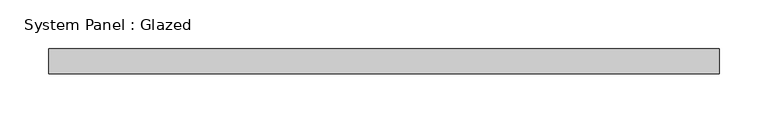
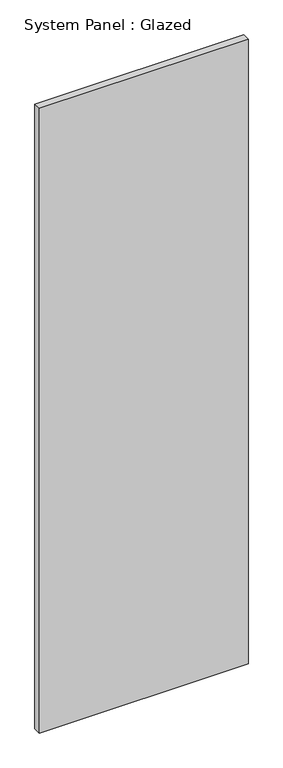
"""IFC4 building model written with IfcOpenShell, lengths in millimetres: plate geometry, System Panel : Glazed."""

from ifc_helpers import new_model, si_unit, origin, origin_with_axes, place, context, project, spatial, polyline, outline, extrude, source, transform, mapped, element, save


def system_panel_glazed_8957ec08(model_context):
    return source(origin(), model_context, "Body", "SweptSolid", [
        extrude(outline(polyline([(343.2499999, -44.45), (-343.2499999, -44.45), (-343.2499999, -19.05), (343.2499999, -19.05), (343.2499999, -44.45)])), origin_with_axes(), (0.0, 0.0, 1.0), 2173.0),
    ])


if __name__ == "__main__":
    model = new_model("IFC4")
    model_context = context("Model", 3, world=origin())
    ifc_project = project(units=[si_unit("LENGTHUNIT", "METRE", prefix="MILLI")], contexts=[model_context])
    site = spatial("IfcSite", under=ifc_project)
    building = spatial("IfcBuilding", under=site)
    placement = place(None, origin())
    system_panel_glazed_shape = system_panel_glazed_8957ec08(model_context)
    element("IfcPlate", 1, ObjectType="System Panel : Glazed", at=placement, inside=building, context=model_context, shape_type="MappedRepresentation", body=[
        mapped(system_panel_glazed_shape, transform((0.0, 0.0, 0.0), x_axis=(1.0, 0.0, 0.0), y_axis=(0.0, 1.0, 0.0), z_axis=(0.0, 0.0, 1.0))),
    ])
    save(model, "model.ifc")
